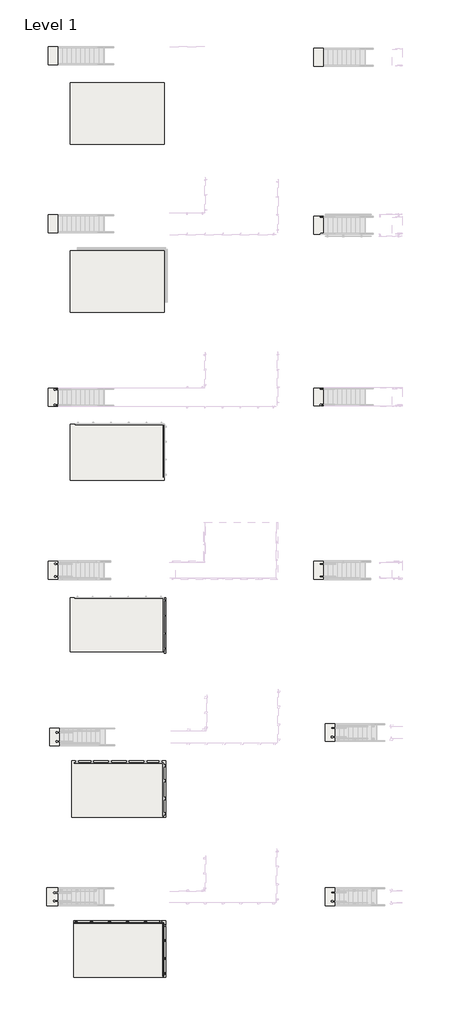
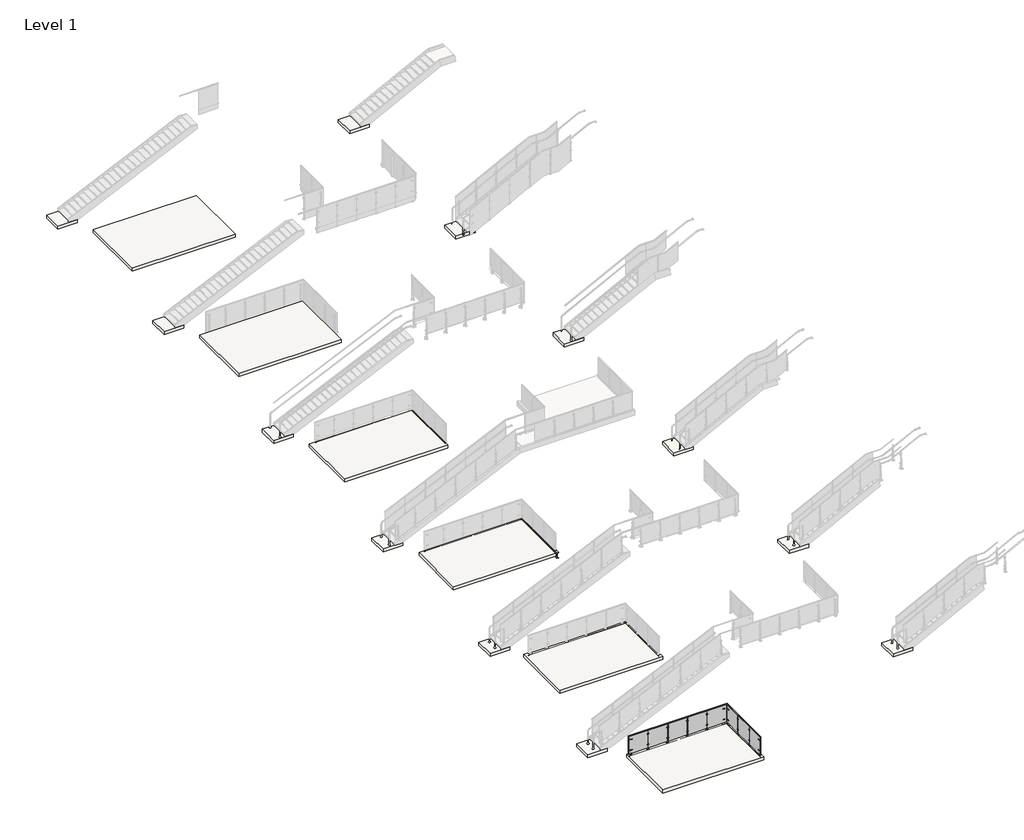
# One storey, part 1 of 37: 18 slabs, 2 proxies, 2 railings, 1 beam.
"""IFC4 building model written with IfcOpenShell, lengths in millimetres."""

from ifc_helpers import new_model, si_unit, point, frame, frame_2d, origin, origin_with_axes, place, context, project, spatial, polyline, circle_curve, trimmed, segment, composite_curve, outline, extrude, transform, mapped, element, save
from components import baluster_end_post_viva_solo_top_mount_e69dec62, baluster_end_post_viva_solo_top_mount_7846b30d

model = new_model("IFC4")

# Units and contexts
model_context = context("Model", 3, world=origin())
ifc_project = project(units=[si_unit("LENGTHUNIT", "METRE", prefix="MILLI")], contexts=[model_context])

# Site, building, storey
site = spatial("IfcSite", under=ifc_project)
building = spatial("IfcBuilding", under=site)
storey = spatial("IfcBuildingStorey", under=building, Name="Level 1", Elevation=0.0)

# Beam
placement = place(None, origin())
element("IfcBeam", 1, ObjectType="C-Channel : C12X30", at=placement, inside=storey, context=model_context, shape_type="SweptSolid", body=[
    extrude(outline(composite_curve([segment(polyline([(38.1, -7759.3231451), (-266.7, -7759.3231451), (-266.7, -7678.7575201)]), True, "CONTINUOUS"), segment(trimmed(circle_curve(frame_2d((-266.7, -7691.4575201)), 12.7), [point((-266.7, -7678.7575201))], [point((-254.0, -7691.4575201))], False, "CARTESIAN"), True, "CONTINUOUS"), segment(polyline([(-254.0, -7691.4575201), (-245.3097675, -7746.3254888), (16.7097675, -7746.3254888), (25.4, -7691.4575201)]), True, "CONTINUOUS"), segment(trimmed(circle_curve(frame_2d((38.1, -7691.4575201)), 12.7), [point((25.4, -7691.4575201))], [point((38.1, -7678.7575201))], False, "CARTESIAN"), True, "CONTINUOUS"), segment(polyline([(38.1, -7678.7575201), (38.1, -7759.3231451)]), True, "CONTINUOUS")], self_intersect=False)), frame((0.0, 8679.233996, 0.0), z_axis=(0.0, 1.0, 0.0), x_axis=(0.0, 0.0, 1.0)), (0.0, 0.0, 1.0), 3184.6819654),
])

# Proxies
baluster_end_post_viva_solo_top_mount_shape = baluster_end_post_viva_solo_top_mount_e69dec62(model_context)
element("IfcBuildingElementProxy", 2, Name="Baluster-End-Post-VIVA-SOLO-Top Mount : CORED INTO CONCRETE_TOP MOUNT FOLD_STRAIGHT", ObjectType="Baluster-End-Post-VIVA-SOLO-Top Mount : CORED INTO CONCRETE_TOP MOUNT FOLD_STRAIGHT", at=placement, inside=storey, context=model_context, shape_type="MappedRepresentation", body=[
    mapped(baluster_end_post_viva_solo_top_mount_shape, transform((-12936.279379, -6756.2290071, -0.508), x_axis=(-1.0, 0.0, 0.0), y_axis=(0.0, -1.0, 0.0), z_axis=(0.0, 0.0, 1.0))),
])
baluster_end_post_viva_solo_top_mount_2_shape = baluster_end_post_viva_solo_top_mount_7846b30d(model_context)
element("IfcBuildingElementProxy", 3, Name="Baluster-End-Post-VIVA-SOLO-Top Mount : CORED INTO CONCRETE_TOP MOUNT FOLD_STRAIGHT", ObjectType="Baluster-End-Post-VIVA-SOLO-Top Mount : CORED INTO CONCRETE_TOP MOUNT FOLD_STRAIGHT", at=placement, inside=storey, context=model_context, shape_type="MappedRepresentation", body=[
    mapped(baluster_end_post_viva_solo_top_mount_2_shape, transform((-7824.211879, -9779.1465071, -0.508), x_axis=(0.0, 1.0, 0.0), y_axis=(-1.0, 0.0, 0.0), z_axis=(0.0, 0.0, 1.0))),
])

# Railings
element("IfcRailing", 4, ObjectType="VIVA-SOLO-Glass-Core Mount-Straight", at=placement, inside=storey, context=model_context, shape_type="SweptSolid", body=[
    extrude(outline(composite_curve([segment(trimmed(circle_curve(frame_2d((-6756.2290071, -0.254)), 0.254), [point((-6756.4830071, -0.254))], [point((-6755.9750071, -0.254))], False, "CARTESIAN"), True, "CONTINUOUS"), segment(trimmed(circle_curve(frame_2d((-6756.2290071, -0.254)), 0.254), [point((-6755.9750071, -0.254))], [point((-6756.4830071, -0.254))], False, "CARTESIAN"), True, "CONTINUOUS")], self_intersect=False)), frame((-12936.279379, 0.0, 0.0), z_axis=(1.0, 0.0, 0.0), x_axis=(0.0, 1.0, 0.0)), (0.0, 0.0, 1.0), 5137.15),
    extrude(outline(composite_curve([segment(trimmed(circle_curve(frame_2d((-6756.2290071, -0.254)), 0.254), [point((-6756.4830071, -0.254))], [point((-6755.9750071, -0.254))], False, "CARTESIAN"), True, "CONTINUOUS"), segment(trimmed(circle_curve(frame_2d((-6756.2290071, -0.254)), 0.254), [point((-6755.9750071, -0.254))], [point((-6756.4830071, -0.254))], False, "CARTESIAN"), True, "CONTINUOUS")], self_intersect=False)), frame((-12936.279379, 0.0, 0.0), z_axis=(1.0, 0.0, 0.0), x_axis=(0.0, 1.0, 0.0)), (0.0, 0.0, 1.0), 5137.15),
    extrude(outline(polyline([(-6731.1465071, 1079.5), (-6708.9215071, 1079.5), (-6708.9215071, 1054.1), (-6713.6840071, 1054.1), (-6713.6840071, 1074.7375), (-6726.3840071, 1074.7375), (-6726.3840071, 1054.1), (-6731.1465071, 1054.1), (-6731.1465071, 1079.5)])), frame((-12936.279379, 0.0, 0.0), z_axis=(1.0, 0.0, 0.0), x_axis=(0.0, 1.0, 0.0)), (0.0, 0.0, 1.0), 5137.15),
    extrude(outline(polyline([(-8807.7613324, -6726.3840071), (-8807.7613324, -6713.6840071), (-7817.1613324, -6713.6840071), (-7817.1613324, -6726.3840071), (-8807.7613324, -6726.3840071)])), frame((0.0, 0.0, 76.2), z_axis=(0.0, 0.0, 1.0), x_axis=(1.0, 0.0, 0.0)), (0.0, 0.0, 1.0), 998.474),
    extrude(outline(polyline([(-6704.1590071, 914.4), (-6678.7590071, 914.4), (-6640.6590071, 381.0), (-6640.6590071, 0.0), (-6704.1590071, 0.0), (-6704.1590071, 914.4)])), frame((-8832.909379, 0.0, 0.0), z_axis=(1.0, 0.0, 0.0), x_axis=(0.0, 1.0, 0.0)), (0.0, 0.0, 1.0), 12.7),
    extrude(outline(composite_curve([segment(trimmed(circle_curve(frame_2d((-8826.559379, -6672.4090071)), 63.5), [point((-8826.559379, -6608.9090071))], [point((-8826.559379, -6735.9090071))], False, "CARTESIAN"), True, "CONTINUOUS"), segment(trimmed(circle_curve(frame_2d((-8826.559379, -6672.4090071)), 63.5), [point((-8826.559379, -6735.9090071))], [point((-8826.559379, -6608.9090071))], False, "CARTESIAN"), True, "CONTINUOUS")], self_intersect=False)), origin_with_axes(), (0.0, 0.0, 1.0), 3.175),
    extrude(outline(polyline([(-8871.009379, -6713.6840071), (-8871.009379, -6704.1590071), (-8782.109379, -6704.1590071), (-8782.109379, -6713.6840071), (-8871.009379, -6713.6840071)])), frame((0.0, 0.0, 251.9910694), z_axis=(0.0, 0.0, 1.0), x_axis=(1.0, 0.0, 0.0)), (0.0, 0.0, 1.0), 31.75),
    extrude(outline(polyline([(-8871.009379, -6713.6840071), (-8871.009379, -6704.1590071), (-8782.109379, -6704.1590071), (-8782.109379, -6713.6840071), (-8871.009379, -6713.6840071)])), frame((0.0, 0.0, 838.2992187), z_axis=(0.0, 0.0, 1.0), x_axis=(1.0, 0.0, 0.0)), (0.0, 0.0, 1.0), 31.75),
    extrude(outline(polyline([(-8871.009379, -6735.9090071), (-8871.009379, -6726.3840071), (-8782.109379, -6726.3840071), (-8782.109379, -6735.9090071), (-8871.009379, -6735.9090071)])), frame((0.0, 0.0, 251.9910694), z_axis=(0.0, 0.0, 1.0), x_axis=(1.0, 0.0, 0.0)), (0.0, 0.0, 1.0), 31.75),
    extrude(outline(polyline([(-8871.009379, -6735.9090071), (-8871.009379, -6726.3840071), (-8782.109379, -6726.3840071), (-8782.109379, -6735.9090071), (-8871.009379, -6735.9090071)])), frame((0.0, 0.0, 838.2992187), z_axis=(0.0, 0.0, 1.0), x_axis=(1.0, 0.0, 0.0)), (0.0, 0.0, 1.0), 31.75),
    extrude(outline(polyline([(76.2, -8782.109379), (76.2, -8871.009379), (69.85, -8871.009379), (47.9353513, -8826.559379), (69.85, -8782.109379), (76.2, -8782.109379)])), frame((0.0, -6726.3840071, 0.0), z_axis=(0.0, 1.0, 0.0), x_axis=(0.0, 0.0, 1.0)), (0.0, 0.0, 1.0), 12.7),
    extrude(outline(composite_curve([segment(trimmed(circle_curve(frame_2d((267.8660694, -8826.559379)), 6.35), [point((267.8660694, -8820.209379))], [point((267.8660694, -8832.909379))], False, "CARTESIAN"), True, "CONTINUOUS"), segment(trimmed(circle_curve(frame_2d((267.8660694, -8826.559379)), 6.35), [point((267.8660694, -8832.909379))], [point((267.8660694, -8820.209379))], False, "CARTESIAN"), True, "CONTINUOUS")], self_intersect=False)), frame((0.0, -6726.3840071, 0.0), z_axis=(0.0, 1.0, 0.0), x_axis=(0.0, 0.0, 1.0)), (0.0, 0.0, 1.0), 12.7),
    extrude(outline(composite_curve([segment(trimmed(circle_curve(frame_2d((854.1742187, -8826.559379)), 6.35), [point((854.1742187, -8820.209379))], [point((854.1742187, -8832.909379))], False, "CARTESIAN"), True, "CONTINUOUS"), segment(trimmed(circle_curve(frame_2d((854.1742187, -8826.559379)), 6.35), [point((854.1742187, -8832.909379))], [point((854.1742187, -8820.209379))], False, "CARTESIAN"), True, "CONTINUOUS")], self_intersect=False)), frame((0.0, -6726.3840071, 0.0), z_axis=(0.0, 1.0, 0.0), x_axis=(0.0, 0.0, 1.0)), (0.0, 0.0, 1.0), 12.7),
    extrude(outline(composite_curve([segment(trimmed(circle_curve(frame_2d((60.325, -8826.559379)), 11.1125), [point((60.325, -8815.446879))], [point((60.325, -8837.671879))], False, "CARTESIAN"), True, "CONTINUOUS"), segment(trimmed(circle_curve(frame_2d((60.325, -8826.559379)), 11.1125), [point((60.325, -8837.671879))], [point((60.325, -8815.446879))], False, "CARTESIAN"), True, "CONTINUOUS")], self_intersect=False)), frame((0.0, -6729.5590071, 0.0), z_axis=(0.0, 1.0, 0.0), x_axis=(0.0, 0.0, 1.0)), (0.0, 0.0, 1.0), 25.4),
    extrude(outline(polyline([(-9835.1913324, -6726.3840071), (-9835.1913324, -6713.6840071), (-8844.5913324, -6713.6840071), (-8844.5913324, -6726.3840071), (-9835.1913324, -6726.3840071)])), frame((0.0, 0.0, 76.2), z_axis=(0.0, 0.0, 1.0), x_axis=(1.0, 0.0, 0.0)), (0.0, 0.0, 1.0), 998.474),
    extrude(outline(polyline([(-6704.1590071, 914.4), (-6678.7590071, 914.4), (-6640.6590071, 381.0), (-6640.6590071, 0.0), (-6704.1590071, 0.0), (-6704.1590071, 914.4)])), frame((-9860.339379, 0.0, 0.0), z_axis=(1.0, 0.0, 0.0), x_axis=(0.0, 1.0, 0.0)), (0.0, 0.0, 1.0), 12.7),
    extrude(outline(composite_curve([segment(trimmed(circle_curve(frame_2d((-9853.989379, -6672.4090071)), 63.5), [point((-9853.989379, -6608.9090071))], [point((-9853.989379, -6735.9090071))], False, "CARTESIAN"), True, "CONTINUOUS"), segment(trimmed(circle_curve(frame_2d((-9853.989379, -6672.4090071)), 63.5), [point((-9853.989379, -6735.9090071))], [point((-9853.989379, -6608.9090071))], False, "CARTESIAN"), True, "CONTINUOUS")], self_intersect=False)), origin_with_axes(), (0.0, 0.0, 1.0), 3.175),
    extrude(outline(polyline([(-9898.439379, -6713.6840071), (-9898.439379, -6704.1590071), (-9809.539379, -6704.1590071), (-9809.539379, -6713.6840071), (-9898.439379, -6713.6840071)])), frame((0.0, 0.0, 251.9910694), z_axis=(0.0, 0.0, 1.0), x_axis=(1.0, 0.0, 0.0)), (0.0, 0.0, 1.0), 31.75),
    extrude(outline(polyline([(-9898.439379, -6713.6840071), (-9898.439379, -6704.1590071), (-9809.539379, -6704.1590071), (-9809.539379, -6713.6840071), (-9898.439379, -6713.6840071)])), frame((0.0, 0.0, 838.2992187), z_axis=(0.0, 0.0, 1.0), x_axis=(1.0, 0.0, 0.0)), (0.0, 0.0, 1.0), 31.75),
    extrude(outline(polyline([(-9898.439379, -6735.9090071), (-9898.439379, -6726.3840071), (-9809.539379, -6726.3840071), (-9809.539379, -6735.9090071), (-9898.439379, -6735.9090071)])), frame((0.0, 0.0, 251.9910694), z_axis=(0.0, 0.0, 1.0), x_axis=(1.0, 0.0, 0.0)), (0.0, 0.0, 1.0), 31.75),
    extrude(outline(polyline([(-9898.439379, -6735.9090071), (-9898.439379, -6726.3840071), (-9809.539379, -6726.3840071), (-9809.539379, -6735.9090071), (-9898.439379, -6735.9090071)])), frame((0.0, 0.0, 838.2992187), z_axis=(0.0, 0.0, 1.0), x_axis=(1.0, 0.0, 0.0)), (0.0, 0.0, 1.0), 31.75),
    extrude(outline(polyline([(76.2, -9809.539379), (76.2, -9898.439379), (69.85, -9898.439379), (47.9353513, -9853.989379), (69.85, -9809.539379), (76.2, -9809.539379)])), frame((0.0, -6726.3840071, 0.0), z_axis=(0.0, 1.0, 0.0), x_axis=(0.0, 0.0, 1.0)), (0.0, 0.0, 1.0), 12.7),
    extrude(outline(composite_curve([segment(trimmed(circle_curve(frame_2d((267.8660694, -9853.989379)), 6.35), [point((267.8660694, -9847.639379))], [point((267.8660694, -9860.339379))], False, "CARTESIAN"), True, "CONTINUOUS"), segment(trimmed(circle_curve(frame_2d((267.8660694, -9853.989379)), 6.35), [point((267.8660694, -9860.339379))], [point((267.8660694, -9847.639379))], False, "CARTESIAN"), True, "CONTINUOUS")], self_intersect=False)), frame((0.0, -6726.3840071, 0.0), z_axis=(0.0, 1.0, 0.0), x_axis=(0.0, 0.0, 1.0)), (0.0, 0.0, 1.0), 12.7),
    extrude(outline(composite_curve([segment(trimmed(circle_curve(frame_2d((854.1742187, -9853.989379)), 6.35), [point((854.1742187, -9847.639379))], [point((854.1742187, -9860.339379))], False, "CARTESIAN"), True, "CONTINUOUS"), segment(trimmed(circle_curve(frame_2d((854.1742187, -9853.989379)), 6.35), [point((854.1742187, -9860.339379))], [point((854.1742187, -9847.639379))], False, "CARTESIAN"), True, "CONTINUOUS")], self_intersect=False)), frame((0.0, -6726.3840071, 0.0), z_axis=(0.0, 1.0, 0.0), x_axis=(0.0, 0.0, 1.0)), (0.0, 0.0, 1.0), 12.7),
    extrude(outline(composite_curve([segment(trimmed(circle_curve(frame_2d((60.325, -9853.989379)), 11.1125), [point((60.325, -9842.876879))], [point((60.325, -9865.101879))], False, "CARTESIAN"), True, "CONTINUOUS"), segment(trimmed(circle_curve(frame_2d((60.325, -9853.989379)), 11.1125), [point((60.325, -9865.101879))], [point((60.325, -9842.876879))], False, "CARTESIAN"), True, "CONTINUOUS")], self_intersect=False)), frame((0.0, -6729.5590071, 0.0), z_axis=(0.0, 1.0, 0.0), x_axis=(0.0, 0.0, 1.0)), (0.0, 0.0, 1.0), 25.4),
    extrude(outline(polyline([(-10862.6213324, -6726.3840071), (-10862.6213324, -6713.6840071), (-9872.0213324, -6713.6840071), (-9872.0213324, -6726.3840071), (-10862.6213324, -6726.3840071)])), frame((0.0, 0.0, 76.2), z_axis=(0.0, 0.0, 1.0), x_axis=(1.0, 0.0, 0.0)), (0.0, 0.0, 1.0), 998.474),
    extrude(outline(polyline([(-6704.1590071, 914.4), (-6678.7590071, 914.4), (-6640.6590071, 381.0), (-6640.6590071, 0.0), (-6704.1590071, 0.0), (-6704.1590071, 914.4)])), frame((-10887.769379, 0.0, 0.0), z_axis=(1.0, 0.0, 0.0), x_axis=(0.0, 1.0, 0.0)), (0.0, 0.0, 1.0), 12.7),
    extrude(outline(composite_curve([segment(trimmed(circle_curve(frame_2d((-10881.419379, -6672.4090071)), 63.5), [point((-10881.419379, -6608.9090071))], [point((-10881.419379, -6735.9090071))], False, "CARTESIAN"), True, "CONTINUOUS"), segment(trimmed(circle_curve(frame_2d((-10881.419379, -6672.4090071)), 63.5), [point((-10881.419379, -6735.9090071))], [point((-10881.419379, -6608.9090071))], False, "CARTESIAN"), True, "CONTINUOUS")], self_intersect=False)), origin_with_axes(), (0.0, 0.0, 1.0), 3.175),
    extrude(outline(polyline([(-10925.869379, -6713.6840071), (-10925.869379, -6704.1590071), (-10836.969379, -6704.1590071), (-10836.969379, -6713.6840071), (-10925.869379, -6713.6840071)])), frame((0.0, 0.0, 251.9910694), z_axis=(0.0, 0.0, 1.0), x_axis=(1.0, 0.0, 0.0)), (0.0, 0.0, 1.0), 31.75),
    extrude(outline(polyline([(-10925.869379, -6713.6840071), (-10925.869379, -6704.1590071), (-10836.969379, -6704.1590071), (-10836.969379, -6713.6840071), (-10925.869379, -6713.6840071)])), frame((0.0, 0.0, 838.2992187), z_axis=(0.0, 0.0, 1.0), x_axis=(1.0, 0.0, 0.0)), (0.0, 0.0, 1.0), 31.75),
    extrude(outline(polyline([(-10925.869379, -6735.9090071), (-10925.869379, -6726.3840071), (-10836.969379, -6726.3840071), (-10836.969379, -6735.9090071), (-10925.869379, -6735.9090071)])), frame((0.0, 0.0, 251.9910694), z_axis=(0.0, 0.0, 1.0), x_axis=(1.0, 0.0, 0.0)), (0.0, 0.0, 1.0), 31.75),
    extrude(outline(polyline([(-10925.869379, -6735.9090071), (-10925.869379, -6726.3840071), (-10836.969379, -6726.3840071), (-10836.969379, -6735.9090071), (-10925.869379, -6735.9090071)])), frame((0.0, 0.0, 838.2992187), z_axis=(0.0, 0.0, 1.0), x_axis=(1.0, 0.0, 0.0)), (0.0, 0.0, 1.0), 31.75),
    extrude(outline(polyline([(76.2, -10836.969379), (76.2, -10925.869379), (69.85, -10925.869379), (47.9353513, -10881.419379), (69.85, -10836.969379), (76.2, -10836.969379)])), frame((0.0, -6726.3840071, 0.0), z_axis=(0.0, 1.0, 0.0), x_axis=(0.0, 0.0, 1.0)), (0.0, 0.0, 1.0), 12.7),
    extrude(outline(composite_curve([segment(trimmed(circle_curve(frame_2d((267.8660694, -10881.419379)), 6.35), [point((267.8660694, -10875.069379))], [point((267.8660694, -10887.769379))], False, "CARTESIAN"), True, "CONTINUOUS"), segment(trimmed(circle_curve(frame_2d((267.8660694, -10881.419379)), 6.35), [point((267.8660694, -10887.769379))], [point((267.8660694, -10875.069379))], False, "CARTESIAN"), True, "CONTINUOUS")], self_intersect=False)), frame((0.0, -6726.3840071, 0.0), z_axis=(0.0, 1.0, 0.0), x_axis=(0.0, 0.0, 1.0)), (0.0, 0.0, 1.0), 12.7),
    extrude(outline(composite_curve([segment(trimmed(circle_curve(frame_2d((854.1742187, -10881.419379)), 6.35), [point((854.1742187, -10875.069379))], [point((854.1742187, -10887.769379))], False, "CARTESIAN"), True, "CONTINUOUS"), segment(trimmed(circle_curve(frame_2d((854.1742187, -10881.419379)), 6.35), [point((854.1742187, -10887.769379))], [point((854.1742187, -10875.069379))], False, "CARTESIAN"), True, "CONTINUOUS")], self_intersect=False)), frame((0.0, -6726.3840071, 0.0), z_axis=(0.0, 1.0, 0.0), x_axis=(0.0, 0.0, 1.0)), (0.0, 0.0, 1.0), 12.7),
    extrude(outline(composite_curve([segment(trimmed(circle_curve(frame_2d((60.325, -10881.419379)), 11.1125), [point((60.325, -10870.306879))], [point((60.325, -10892.531879))], False, "CARTESIAN"), True, "CONTINUOUS"), segment(trimmed(circle_curve(frame_2d((60.325, -10881.419379)), 11.1125), [point((60.325, -10892.531879))], [point((60.325, -10870.306879))], False, "CARTESIAN"), True, "CONTINUOUS")], self_intersect=False)), frame((0.0, -6729.5590071, 0.0), z_axis=(0.0, 1.0, 0.0), x_axis=(0.0, 0.0, 1.0)), (0.0, 0.0, 1.0), 25.4),
    extrude(outline(polyline([(-11890.0513324, -6726.3840071), (-11890.0513324, -6713.6840071), (-10899.4513324, -6713.6840071), (-10899.4513324, -6726.3840071), (-11890.0513324, -6726.3840071)])), frame((0.0, 0.0, 76.2), z_axis=(0.0, 0.0, 1.0), x_axis=(1.0, 0.0, 0.0)), (0.0, 0.0, 1.0), 998.474),
    extrude(outline(polyline([(-6704.1590071, 914.4), (-6678.7590071, 914.4), (-6640.6590071, 381.0), (-6640.6590071, 0.0), (-6704.1590071, 0.0), (-6704.1590071, 914.4)])), frame((-11915.199379, 0.0, 0.0), z_axis=(1.0, 0.0, 0.0), x_axis=(0.0, 1.0, 0.0)), (0.0, 0.0, 1.0), 12.7),
    extrude(outline(composite_curve([segment(trimmed(circle_curve(frame_2d((-11908.849379, -6672.4090071)), 63.5), [point((-11908.849379, -6608.9090071))], [point((-11908.849379, -6735.9090071))], False, "CARTESIAN"), True, "CONTINUOUS"), segment(trimmed(circle_curve(frame_2d((-11908.849379, -6672.4090071)), 63.5), [point((-11908.849379, -6735.9090071))], [point((-11908.849379, -6608.9090071))], False, "CARTESIAN"), True, "CONTINUOUS")], self_intersect=False)), origin_with_axes(), (0.0, 0.0, 1.0), 3.175),
    extrude(outline(polyline([(-11953.299379, -6713.6840071), (-11953.299379, -6704.1590071), (-11864.399379, -6704.1590071), (-11864.399379, -6713.6840071), (-11953.299379, -6713.6840071)])), frame((0.0, 0.0, 251.9910694), z_axis=(0.0, 0.0, 1.0), x_axis=(1.0, 0.0, 0.0)), (0.0, 0.0, 1.0), 31.75),
    extrude(outline(polyline([(-11953.299379, -6713.6840071), (-11953.299379, -6704.1590071), (-11864.399379, -6704.1590071), (-11864.399379, -6713.6840071), (-11953.299379, -6713.6840071)])), frame((0.0, 0.0, 838.2992187), z_axis=(0.0, 0.0, 1.0), x_axis=(1.0, 0.0, 0.0)), (0.0, 0.0, 1.0), 31.75),
    extrude(outline(polyline([(-11953.299379, -6735.9090071), (-11953.299379, -6726.3840071), (-11864.399379, -6726.3840071), (-11864.399379, -6735.9090071), (-11953.299379, -6735.9090071)])), frame((0.0, 0.0, 251.9910694), z_axis=(0.0, 0.0, 1.0), x_axis=(1.0, 0.0, 0.0)), (0.0, 0.0, 1.0), 31.75),
    extrude(outline(polyline([(-11953.299379, -6735.9090071), (-11953.299379, -6726.3840071), (-11864.399379, -6726.3840071), (-11864.399379, -6735.9090071), (-11953.299379, -6735.9090071)])), frame((0.0, 0.0, 838.2992187), z_axis=(0.0, 0.0, 1.0), x_axis=(1.0, 0.0, 0.0)), (0.0, 0.0, 1.0), 31.75),
    extrude(outline(polyline([(76.2, -11864.399379), (76.2, -11953.299379), (69.85, -11953.299379), (47.9353513, -11908.849379), (69.85, -11864.399379), (76.2, -11864.399379)])), frame((0.0, -6726.3840071, 0.0), z_axis=(0.0, 1.0, 0.0), x_axis=(0.0, 0.0, 1.0)), (0.0, 0.0, 1.0), 12.7),
    extrude(outline(composite_curve([segment(trimmed(circle_curve(frame_2d((267.8660694, -11908.849379)), 6.35), [point((267.8660694, -11902.499379))], [point((267.8660694, -11915.199379))], False, "CARTESIAN"), True, "CONTINUOUS"), segment(trimmed(circle_curve(frame_2d((267.8660694, -11908.849379)), 6.35), [point((267.8660694, -11915.199379))], [point((267.8660694, -11902.499379))], False, "CARTESIAN"), True, "CONTINUOUS")], self_intersect=False)), frame((0.0, -6726.3840071, 0.0), z_axis=(0.0, 1.0, 0.0), x_axis=(0.0, 0.0, 1.0)), (0.0, 0.0, 1.0), 12.7),
    extrude(outline(composite_curve([segment(trimmed(circle_curve(frame_2d((854.1742187, -11908.849379)), 6.35), [point((854.1742187, -11902.499379))], [point((854.1742187, -11915.199379))], False, "CARTESIAN"), True, "CONTINUOUS"), segment(trimmed(circle_curve(frame_2d((854.1742187, -11908.849379)), 6.35), [point((854.1742187, -11915.199379))], [point((854.1742187, -11902.499379))], False, "CARTESIAN"), True, "CONTINUOUS")], self_intersect=False)), frame((0.0, -6726.3840071, 0.0), z_axis=(0.0, 1.0, 0.0), x_axis=(0.0, 0.0, 1.0)), (0.0, 0.0, 1.0), 12.7),
    extrude(outline(composite_curve([segment(trimmed(circle_curve(frame_2d((60.325, -11908.849379)), 11.1125), [point((60.325, -11897.736879))], [point((60.325, -11919.961879))], False, "CARTESIAN"), True, "CONTINUOUS"), segment(trimmed(circle_curve(frame_2d((60.325, -11908.849379)), 11.1125), [point((60.325, -11919.961879))], [point((60.325, -11897.736879))], False, "CARTESIAN"), True, "CONTINUOUS")], self_intersect=False)), frame((0.0, -6729.5590071, 0.0), z_axis=(0.0, 1.0, 0.0), x_axis=(0.0, 0.0, 1.0)), (0.0, 0.0, 1.0), 25.4),
    extrude(outline(polyline([(-12917.4813324, -6726.3840071), (-12917.4813324, -6713.6840071), (-11926.8813324, -6713.6840071), (-11926.8813324, -6726.3840071), (-12917.4813324, -6726.3840071)])), frame((0.0, 0.0, 76.2), z_axis=(0.0, 0.0, 1.0), x_axis=(1.0, 0.0, 0.0)), (0.0, 0.0, 1.0), 998.474),
])
element("IfcRailing", 5, ObjectType="VIVA-SOLO-Glass-Core Mount-Straight", at=placement, inside=storey, context=model_context, shape_type="SweptSolid", body=[
    extrude(outline(composite_curve([segment(trimmed(circle_curve(frame_2d((-0.254, -7824.211879)), 0.254), [point((-0.254, -7824.465879))], [point((-0.254, -7823.957879))], False, "CARTESIAN"), True, "CONTINUOUS"), segment(trimmed(circle_curve(frame_2d((-0.254, -7824.211879)), 0.254), [point((-0.254, -7823.957879))], [point((-0.254, -7824.465879))], False, "CARTESIAN"), True, "CONTINUOUS")], self_intersect=False)), frame((0.0, -9779.1465071, 0.0), z_axis=(0.0, 1.0, 0.0), x_axis=(0.0, 0.0, 1.0)), (0.0, 0.0, 1.0), 3048.0),
    extrude(outline(composite_curve([segment(trimmed(circle_curve(frame_2d((-0.254, -7824.211879)), 0.254), [point((-0.254, -7824.465879))], [point((-0.254, -7823.957879))], False, "CARTESIAN"), True, "CONTINUOUS"), segment(trimmed(circle_curve(frame_2d((-0.254, -7824.211879)), 0.254), [point((-0.254, -7823.957879))], [point((-0.254, -7824.465879))], False, "CARTESIAN"), True, "CONTINUOUS")], self_intersect=False)), frame((0.0, -9779.1465071, 0.0), z_axis=(0.0, 1.0, 0.0), x_axis=(0.0, 0.0, 1.0)), (0.0, 0.0, 1.0), 3048.0),
    extrude(outline(polyline([(1079.5, -7799.129379), (1054.1, -7799.129379), (1054.1, -7794.366879), (1074.7375, -7794.366879), (1074.7375, -7781.666879), (1054.1, -7781.666879), (1054.1, -7776.904379), (1079.5, -7776.904379), (1079.5, -7799.129379)])), frame((0.0, -9779.1465071, 0.0), z_axis=(0.0, 1.0, 0.0), x_axis=(0.0, 0.0, 1.0)), (0.0, 0.0, 1.0), 3048.0),
    extrude(outline(polyline([(-7794.366879, -8776.2295537), (-7781.666879, -8776.2295537), (-7781.666879, -9766.8295537), (-7794.366879, -9766.8295537), (-7794.366879, -8776.2295537)])), frame((0.0, 0.0, 76.2), z_axis=(0.0, 0.0, 1.0), x_axis=(1.0, 0.0, 0.0)), (0.0, 0.0, 1.0), 998.474),
    extrude(outline(polyline([(914.4, -7772.141879), (0.0, -7772.141879), (0.0, -7708.641879), (381.0, -7708.641879), (914.4, -7746.741879), (914.4, -7772.141879)])), frame((0.0, -8769.4965071, 0.0), z_axis=(0.0, 1.0, 0.0), x_axis=(0.0, 0.0, 1.0)), (0.0, 0.0, 1.0), 12.7),
    extrude(outline(composite_curve([segment(trimmed(circle_curve(frame_2d((-7740.391879, -8763.1465071)), 63.5), [point((-7676.891879, -8763.1465071))], [point((-7803.891879, -8763.1465071))], False, "CARTESIAN"), True, "CONTINUOUS"), segment(trimmed(circle_curve(frame_2d((-7740.391879, -8763.1465071)), 63.5), [point((-7803.891879, -8763.1465071))], [point((-7676.891879, -8763.1465071))], False, "CARTESIAN"), True, "CONTINUOUS")], self_intersect=False)), origin_with_axes(), (0.0, 0.0, 1.0), 3.175),
    extrude(outline(polyline([(-7781.666879, -8718.6965071), (-7772.141879, -8718.6965071), (-7772.141879, -8807.5965071), (-7781.666879, -8807.5965071), (-7781.666879, -8718.6965071)])), frame((0.0, 0.0, 251.9910694), z_axis=(0.0, 0.0, 1.0), x_axis=(1.0, 0.0, 0.0)), (0.0, 0.0, 1.0), 31.75),
    extrude(outline(polyline([(-7781.666879, -8718.6965071), (-7772.141879, -8718.6965071), (-7772.141879, -8807.5965071), (-7781.666879, -8807.5965071), (-7781.666879, -8718.6965071)])), frame((0.0, 0.0, 838.2992187), z_axis=(0.0, 0.0, 1.0), x_axis=(1.0, 0.0, 0.0)), (0.0, 0.0, 1.0), 31.75),
    extrude(outline(polyline([(-7803.891879, -8718.6965071), (-7794.366879, -8718.6965071), (-7794.366879, -8807.5965071), (-7803.891879, -8807.5965071), (-7803.891879, -8718.6965071)])), frame((0.0, 0.0, 251.9910694), z_axis=(0.0, 0.0, 1.0), x_axis=(1.0, 0.0, 0.0)), (0.0, 0.0, 1.0), 31.75),
    extrude(outline(polyline([(-7803.891879, -8718.6965071), (-7794.366879, -8718.6965071), (-7794.366879, -8807.5965071), (-7803.891879, -8807.5965071), (-7803.891879, -8718.6965071)])), frame((0.0, 0.0, 838.2992187), z_axis=(0.0, 0.0, 1.0), x_axis=(1.0, 0.0, 0.0)), (0.0, 0.0, 1.0), 31.75),
    extrude(outline(polyline([(-8807.5965071, 76.2), (-8718.6965071, 76.2), (-8718.6965071, 69.85), (-8763.1465071, 47.9353513), (-8807.5965071, 69.85), (-8807.5965071, 76.2)])), frame((-7794.366879, 0.0, 0.0), z_axis=(1.0, 0.0, 0.0), x_axis=(0.0, 1.0, 0.0)), (0.0, 0.0, 1.0), 12.7),
    extrude(outline(composite_curve([segment(trimmed(circle_curve(frame_2d((-8763.1465071, 267.8660694)), 6.35), [point((-8769.4965071, 267.8660694))], [point((-8756.7965071, 267.8660694))], False, "CARTESIAN"), True, "CONTINUOUS"), segment(trimmed(circle_curve(frame_2d((-8763.1465071, 267.8660694)), 6.35), [point((-8756.7965071, 267.8660694))], [point((-8769.4965071, 267.8660694))], False, "CARTESIAN"), True, "CONTINUOUS")], self_intersect=False)), frame((-7794.366879, 0.0, 0.0), z_axis=(1.0, 0.0, 0.0), x_axis=(0.0, 1.0, 0.0)), (0.0, 0.0, 1.0), 12.7),
    extrude(outline(composite_curve([segment(trimmed(circle_curve(frame_2d((-8763.1465071, 854.1742187)), 6.35), [point((-8769.4965071, 854.1742187))], [point((-8756.7965071, 854.1742187))], False, "CARTESIAN"), True, "CONTINUOUS"), segment(trimmed(circle_curve(frame_2d((-8763.1465071, 854.1742187)), 6.35), [point((-8756.7965071, 854.1742187))], [point((-8769.4965071, 854.1742187))], False, "CARTESIAN"), True, "CONTINUOUS")], self_intersect=False)), frame((-7794.366879, 0.0, 0.0), z_axis=(1.0, 0.0, 0.0), x_axis=(0.0, 1.0, 0.0)), (0.0, 0.0, 1.0), 12.7),
    extrude(outline(composite_curve([segment(trimmed(circle_curve(frame_2d((-8763.1465071, 60.325)), 11.1125), [point((-8774.2590071, 60.325))], [point((-8752.0340071, 60.325))], False, "CARTESIAN"), True, "CONTINUOUS"), segment(trimmed(circle_curve(frame_2d((-8763.1465071, 60.325)), 11.1125), [point((-8752.0340071, 60.325))], [point((-8774.2590071, 60.325))], False, "CARTESIAN"), True, "CONTINUOUS")], self_intersect=False)), frame((-7797.541879, 0.0, 0.0), z_axis=(1.0, 0.0, 0.0), x_axis=(0.0, 1.0, 0.0)), (0.0, 0.0, 1.0), 25.4),
    extrude(outline(polyline([(-7794.366879, -7760.2295537), (-7781.666879, -7760.2295537), (-7781.666879, -8750.8295537), (-7794.366879, -8750.8295537), (-7794.366879, -7760.2295537)])), frame((0.0, 0.0, 76.2), z_axis=(0.0, 0.0, 1.0), x_axis=(1.0, 0.0, 0.0)), (0.0, 0.0, 1.0), 998.474),
    extrude(outline(polyline([(914.4, -7772.141879), (0.0, -7772.141879), (0.0, -7708.641879), (381.0, -7708.641879), (914.4, -7746.741879), (914.4, -7772.141879)])), frame((0.0, -7753.4965071, 0.0), z_axis=(0.0, 1.0, 0.0), x_axis=(0.0, 0.0, 1.0)), (0.0, 0.0, 1.0), 12.7),
    extrude(outline(composite_curve([segment(trimmed(circle_curve(frame_2d((-7740.391879, -7747.1465071)), 63.5), [point((-7676.891879, -7747.1465071))], [point((-7803.891879, -7747.1465071))], False, "CARTESIAN"), True, "CONTINUOUS"), segment(trimmed(circle_curve(frame_2d((-7740.391879, -7747.1465071)), 63.5), [point((-7803.891879, -7747.1465071))], [point((-7676.891879, -7747.1465071))], False, "CARTESIAN"), True, "CONTINUOUS")], self_intersect=False)), origin_with_axes(), (0.0, 0.0, 1.0), 3.175),
    extrude(outline(polyline([(-7781.666879, -7702.6965071), (-7772.141879, -7702.6965071), (-7772.141879, -7791.5965071), (-7781.666879, -7791.5965071), (-7781.666879, -7702.6965071)])), frame((0.0, 0.0, 251.9910694), z_axis=(0.0, 0.0, 1.0), x_axis=(1.0, 0.0, 0.0)), (0.0, 0.0, 1.0), 31.75),
    extrude(outline(polyline([(-7781.666879, -7702.6965071), (-7772.141879, -7702.6965071), (-7772.141879, -7791.5965071), (-7781.666879, -7791.5965071), (-7781.666879, -7702.6965071)])), frame((0.0, 0.0, 838.2992187), z_axis=(0.0, 0.0, 1.0), x_axis=(1.0, 0.0, 0.0)), (0.0, 0.0, 1.0), 31.75),
    extrude(outline(polyline([(-7803.891879, -7702.6965071), (-7794.366879, -7702.6965071), (-7794.366879, -7791.5965071), (-7803.891879, -7791.5965071), (-7803.891879, -7702.6965071)])), frame((0.0, 0.0, 251.9910694), z_axis=(0.0, 0.0, 1.0), x_axis=(1.0, 0.0, 0.0)), (0.0, 0.0, 1.0), 31.75),
    extrude(outline(polyline([(-7803.891879, -7702.6965071), (-7794.366879, -7702.6965071), (-7794.366879, -7791.5965071), (-7803.891879, -7791.5965071), (-7803.891879, -7702.6965071)])), frame((0.0, 0.0, 838.2992187), z_axis=(0.0, 0.0, 1.0), x_axis=(1.0, 0.0, 0.0)), (0.0, 0.0, 1.0), 31.75),
    extrude(outline(polyline([(-7791.5965071, 76.2), (-7702.6965071, 76.2), (-7702.6965071, 69.85), (-7747.1465071, 47.9353513), (-7791.5965071, 69.85), (-7791.5965071, 76.2)])), frame((-7794.366879, 0.0, 0.0), z_axis=(1.0, 0.0, 0.0), x_axis=(0.0, 1.0, 0.0)), (0.0, 0.0, 1.0), 12.7),
    extrude(outline(composite_curve([segment(trimmed(circle_curve(frame_2d((-7747.1465071, 267.8660694)), 6.35), [point((-7753.4965071, 267.8660694))], [point((-7740.7965071, 267.8660694))], False, "CARTESIAN"), True, "CONTINUOUS"), segment(trimmed(circle_curve(frame_2d((-7747.1465071, 267.8660694)), 6.35), [point((-7740.7965071, 267.8660694))], [point((-7753.4965071, 267.8660694))], False, "CARTESIAN"), True, "CONTINUOUS")], self_intersect=False)), frame((-7794.366879, 0.0, 0.0), z_axis=(1.0, 0.0, 0.0), x_axis=(0.0, 1.0, 0.0)), (0.0, 0.0, 1.0), 12.7),
    extrude(outline(composite_curve([segment(trimmed(circle_curve(frame_2d((-7747.1465071, 854.1742187)), 6.35), [point((-7753.4965071, 854.1742187))], [point((-7740.7965071, 854.1742187))], False, "CARTESIAN"), True, "CONTINUOUS"), segment(trimmed(circle_curve(frame_2d((-7747.1465071, 854.1742187)), 6.35), [point((-7740.7965071, 854.1742187))], [point((-7753.4965071, 854.1742187))], False, "CARTESIAN"), True, "CONTINUOUS")], self_intersect=False)), frame((-7794.366879, 0.0, 0.0), z_axis=(1.0, 0.0, 0.0), x_axis=(0.0, 1.0, 0.0)), (0.0, 0.0, 1.0), 12.7),
    extrude(outline(composite_curve([segment(trimmed(circle_curve(frame_2d((-7747.1465071, 60.325)), 11.1125), [point((-7758.2590071, 60.325))], [point((-7736.0340071, 60.325))], False, "CARTESIAN"), True, "CONTINUOUS"), segment(trimmed(circle_curve(frame_2d((-7747.1465071, 60.325)), 11.1125), [point((-7736.0340071, 60.325))], [point((-7758.2590071, 60.325))], False, "CARTESIAN"), True, "CONTINUOUS")], self_intersect=False)), frame((-7797.541879, 0.0, 0.0), z_axis=(1.0, 0.0, 0.0), x_axis=(0.0, 1.0, 0.0)), (0.0, 0.0, 1.0), 25.4),
    extrude(outline(polyline([(-7794.366879, -6744.2295537), (-7781.666879, -6744.2295537), (-7781.666879, -7734.8295537), (-7794.366879, -7734.8295537), (-7794.366879, -6744.2295537)])), frame((0.0, 0.0, 76.2), z_axis=(0.0, 0.0, 1.0), x_axis=(1.0, 0.0, 0.0)), (0.0, 0.0, 1.0), 998.474),
])

# Slabs
element("IfcSlab", 6, ObjectType="Generic - 6.5\"", at=placement, inside=storey, context=model_context, shape_type="SweptSolid", body=[
    extrude(outline(polyline([(-12928.6401042, -6595.8794732), (-7670.8401042, -6595.8794732), (-7670.8401042, -9847.0794732), (-12928.6401042, -9847.0794732), (-12928.6401042, -6595.8794732)])), frame((0.0, 0.0, -167.64), z_axis=(0.0, 0.0, 1.0), x_axis=(1.0, 0.0, 0.0)), (0.0, 0.0, 1.0), 167.64),
])
element("IfcSlab", 7, ObjectType="Generic - 6.5\"", at=placement, inside=storey, context=model_context, shape_type="SweptSolid", body=[
    extrude(outline(polyline([(-13033.3736903, 2546.5467985), (-7669.232831, 2546.5467985), (-7669.232831, -704.6532015), (-13033.3736903, -704.6532015), (-13033.3736903, 2546.5467985)])), frame((0.0, 0.0, -167.64), z_axis=(0.0, 0.0, 1.0), x_axis=(1.0, 0.0, 0.0)), (0.0, 0.0, 1.0), 167.64),
])
element("IfcSlab", 8, ObjectType="Generic - 6.5\"", at=placement, inside=storey, context=model_context, shape_type="SweptSolid", body=[
    extrude(outline(polyline([(-13118.7231451, 11863.9159615), (-7759.3231451, 11863.9159615), (-7759.3231451, 8765.1159615), (-13118.7231451, 8765.1159615), (-13118.7231451, 11863.9159615)])), frame((0.0, 0.0, -167.64), z_axis=(0.0, 0.0, 1.0), x_axis=(1.0, 0.0, 0.0)), (0.0, 0.0, 1.0), 167.64),
])
element("IfcSlab", 9, ObjectType="Generic - 6.5\"", at=placement, inside=storey, context=model_context, shape_type="SweptSolid", body=[
    extrude(outline(polyline([(-13118.7231451, 21769.9159615), (-7759.3231451, 21769.9159615), (-7759.3231451, 18556.8159615), (-13118.7231451, 18556.8159615), (-13118.7231451, 21769.9159615)])), frame((0.0, 0.0, -167.64), z_axis=(0.0, 0.0, 1.0), x_axis=(1.0, 0.0, 0.0)), (0.0, 0.0, 1.0), 167.64),
])
element("IfcSlab", 10, ObjectType="Generic - 6.5\"", at=placement, inside=storey, context=model_context, shape_type="SweptSolid", body=[
    extrude(outline(polyline([(-13118.7231451, 31675.9159615), (-7759.3231451, 31675.9159615), (-7759.3231451, 28158.0159615), (-13118.7231451, 28158.0159615), (-13118.7231451, 31675.9159615)])), frame((0.0, 0.0, -167.64), z_axis=(0.0, 0.0, 1.0), x_axis=(1.0, 0.0, 0.0)), (0.0, 0.0, 1.0), 167.64),
])
element("IfcSlab", 11, ObjectType="Generic - 6.5\"", at=placement, inside=storey, context=model_context, shape_type="SweptSolid", body=[
    extrude(outline(polyline([(-13118.7231451, 41277.1159615), (-7759.3231451, 41277.1159615), (-7759.3231451, 37759.2159615), (-13118.7231451, 37759.2159615), (-13118.7231451, 41277.1159615)])), frame((0.0, 0.0, -167.64), z_axis=(0.0, 0.0, 1.0), x_axis=(1.0, 0.0, 0.0)), (0.0, 0.0, 1.0), 167.64),
])
element("IfcSlab", 12, ObjectType="Generic - 6.5\"", at=placement, inside=storey, context=model_context, shape_type="SweptSolid", body=[
    extrude(outline(polyline([(1441.1976033, 4658.759649), (2457.1976033, 4658.759649), (2457.1976033, 3642.759649), (1441.1976033, 3642.759649), (1441.1976033, 4658.759649)])), frame((0.0, 0.0, -167.64), z_axis=(0.0, 0.0, 1.0), x_axis=(1.0, 0.0, 0.0)), (0.0, 0.0, 1.0), 167.64),
])
element("IfcSlab", 13, ObjectType="Generic - 6.5\"", at=placement, inside=storey, context=model_context, shape_type="SweptSolid", body=[
    extrude(outline(polyline([(-14479.233284, -4733.3653686), (-13463.233284, -4733.3653686), (-13463.233284, -5749.3653686), (-14479.233284, -5749.3653686), (-14479.233284, -4733.3653686)])), frame((0.0, 0.0, -167.64), z_axis=(0.0, 0.0, 1.0), x_axis=(1.0, 0.0, 0.0)), (0.0, 0.0, 1.0), 167.64),
])
element("IfcSlab", 14, ObjectType="Generic - 6.5\"", at=placement, inside=storey, context=model_context, shape_type="SweptSolid", body=[
    extrude(outline(polyline([(-14307.0360616, 4404.2965519), (-13291.0360616, 4404.2965519), (-13291.0360616, 3388.2965519), (-14307.0360616, 3388.2965519), (-14307.0360616, 4404.2965519)])), frame((0.0, 0.0, -167.64), z_axis=(0.0, 0.0, 1.0), x_axis=(1.0, 0.0, 0.0)), (0.0, 0.0, 1.0), 167.64),
])
element("IfcSlab", 15, ObjectType="Generic - 6.5\"", at=placement, inside=storey, context=model_context, shape_type="SweptSolid", body=[
    extrude(outline(polyline([(791.1824612, 13933.9406645), (1807.1824612, 13933.9406645), (1807.1824612, 12917.9406645), (791.1824612, 12917.9406645), (791.1824612, 13933.9406645)])), frame((0.0, 0.0, -167.64), z_axis=(0.0, 0.0, 1.0), x_axis=(1.0, 0.0, 0.0)), (0.0, 0.0, 1.0), 167.64),
])
element("IfcSlab", 16, ObjectType="Generic - 6.5\"", at=placement, inside=storey, context=model_context, shape_type="SweptSolid", body=[
    extrude(outline(polyline([(-14382.2770501, 13933.9406645), (-13366.2770501, 13933.9406645), (-13366.2770501, 12917.9406645), (-14382.2770501, 12917.9406645), (-14382.2770501, 13933.9406645)])), frame((0.0, 0.0, -167.64), z_axis=(0.0, 0.0, 1.0), x_axis=(1.0, 0.0, 0.0)), (0.0, 0.0, 1.0), 167.64),
])
element("IfcSlab", 17, ObjectType="Generic - 6.5\"", at=placement, inside=storey, context=model_context, shape_type="SweptSolid", body=[
    extrude(outline(polyline([(791.1824612, 23839.9406645), (1807.1824612, 23839.9406645), (1807.1824612, 22823.9406645), (791.1824612, 22823.9406645), (791.1824612, 23839.9406645)])), frame((0.0, 0.0, -167.64), z_axis=(0.0, 0.0, 1.0), x_axis=(1.0, 0.0, 0.0)), (0.0, 0.0, 1.0), 167.64),
])
element("IfcSlab", 18, ObjectType="Generic - 6.5\"", at=placement, inside=storey, context=model_context, shape_type="SweptSolid", body=[
    extrude(outline(polyline([(791.1824612, 33644.3406645), (1807.1824612, 33644.3406645), (1807.1824612, 32628.3406645), (791.1824612, 32628.3406645), (791.1824612, 33644.3406645)])), frame((0.0, 0.0, -167.64), z_axis=(0.0, 0.0, 1.0), x_axis=(1.0, 0.0, 0.0)), (0.0, 0.0, 1.0), 167.64),
])
element("IfcSlab", 19, ObjectType="Generic - 6.5\"", at=placement, inside=storey, context=model_context, shape_type="SweptSolid", body=[
    extrude(outline(polyline([(-14382.2770501, 33727.3216942), (-13366.2770501, 33727.3216942), (-13366.2770501, 32711.3216942), (-14382.2770501, 32711.3216942), (-14382.2770501, 33727.3216942)])), frame((0.0, 0.0, -167.64), z_axis=(0.0, 0.0, 1.0), x_axis=(1.0, 0.0, 0.0)), (0.0, 0.0, 1.0), 167.64),
])
element("IfcSlab", 20, ObjectType="Generic - 6.5\"", at=placement, inside=storey, context=model_context, shape_type="SweptSolid", body=[
    extrude(outline(polyline([(-14382.2770501, 23821.3216942), (-13366.2770501, 23821.3216942), (-13366.2770501, 22805.3216942), (-14382.2770501, 22805.3216942), (-14382.2770501, 23821.3216942)])), frame((0.0, 0.0, -167.64), z_axis=(0.0, 0.0, 1.0), x_axis=(1.0, 0.0, 0.0)), (0.0, 0.0, 1.0), 167.64),
])
element("IfcSlab", 21, ObjectType="Generic - 6.5\"", at=placement, inside=storey, context=model_context, shape_type="SweptSolid", body=[
    extrude(outline(polyline([(791.1824612, 43245.5406645), (1807.1824612, 43245.5406645), (1807.1824612, 42229.5406645), (791.1824612, 42229.5406645), (791.1824612, 43245.5406645)])), frame((0.0, 0.0, -167.64), z_axis=(0.0, 0.0, 1.0), x_axis=(1.0, 0.0, 0.0)), (0.0, 0.0, 1.0), 167.64),
])
element("IfcSlab", 22, ObjectType="Generic - 6.5\"", at=placement, inside=storey, context=model_context, shape_type="SweptSolid", body=[
    extrude(outline(polyline([(-14382.2770501, 43328.5216942), (-13366.2770501, 43328.5216942), (-13366.2770501, 42312.5216942), (-14382.2770501, 42312.5216942), (-14382.2770501, 43328.5216942)])), frame((0.0, 0.0, -167.64), z_axis=(0.0, 0.0, 1.0), x_axis=(1.0, 0.0, 0.0)), (0.0, 0.0, 1.0), 167.64),
])
element("IfcSlab", 23, ObjectType="Generic - 6.5\"", at=placement, inside=storey, context=model_context, shape_type="SweptSolid", body=[
    extrude(outline(polyline([(1441.1976033, -4733.3653686), (2457.1976033, -4733.3653686), (2457.1976033, -5749.3653686), (1441.1976033, -5749.3653686), (1441.1976033, -4733.3653686)])), frame((0.0, 0.0, -167.64), z_axis=(0.0, 0.0, 1.0), x_axis=(1.0, 0.0, 0.0)), (0.0, 0.0, 1.0), 167.64),
])

save(model, "model.ifc")
